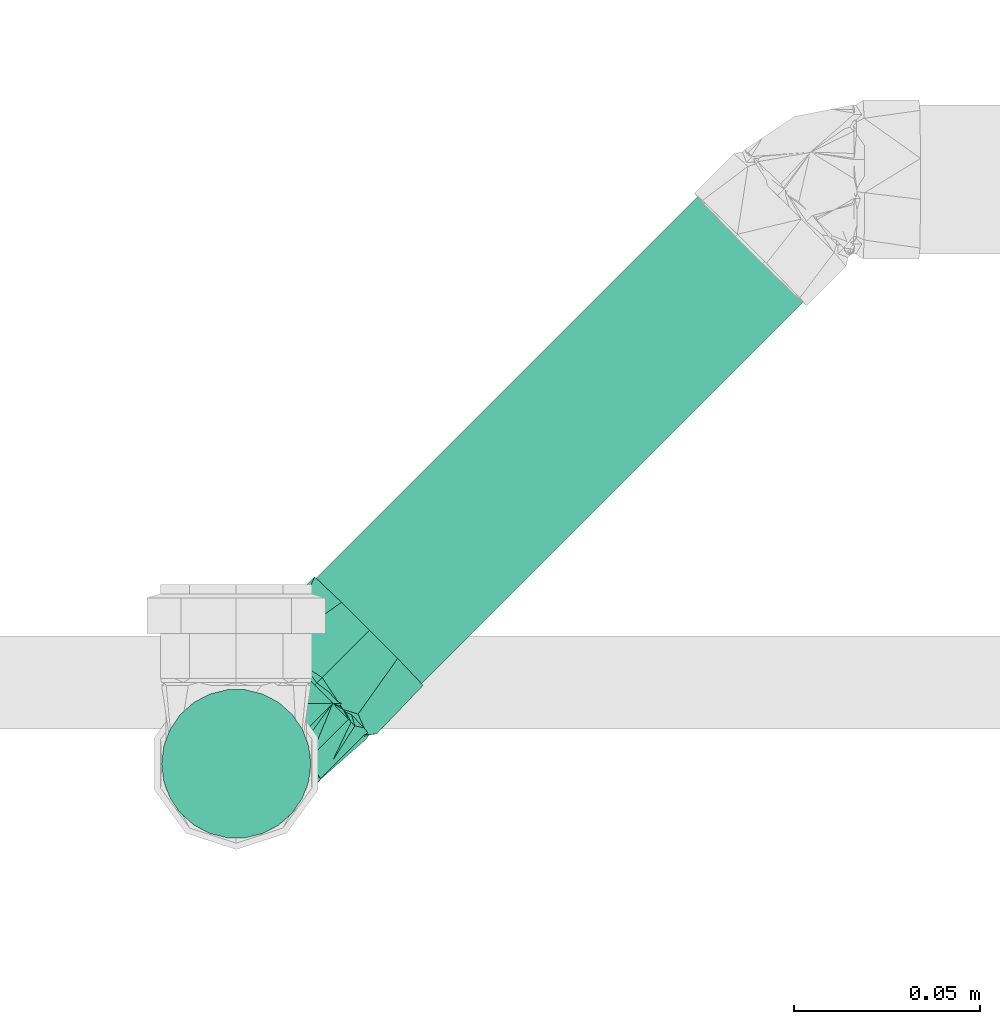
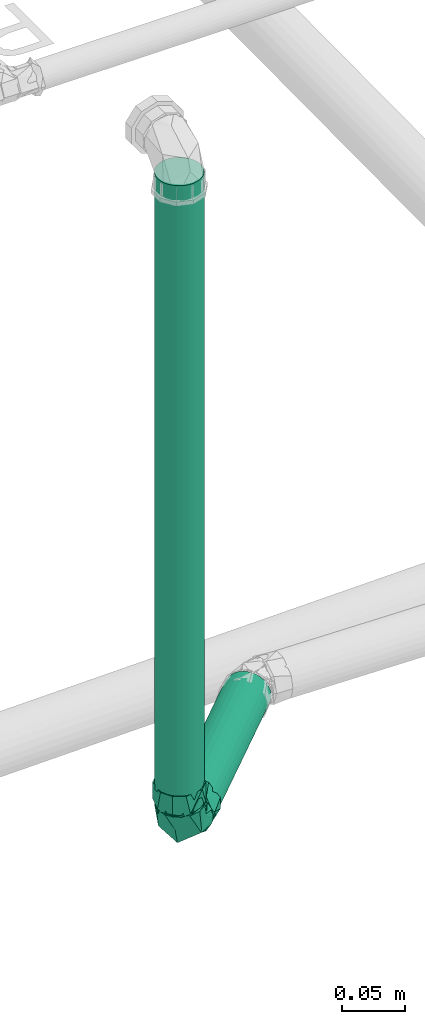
# One storey, part 253 of 589: 2 flow segments, 1 flow fitting.
"""IFC2X3 building model written with IfcOpenShell, lengths in millimetres."""

from ifc_helpers import new_model, entity, si_unit, converted_unit, derived_unit, direction, frame, frame_2d, origin, place, context, subcontext, project, spatial, circle, extrude, faceted_brep, source, transform, mapped, material, type_object, type_shapes, element, save


model = new_model("IFC2X3")

# Units and contexts
model_context = context("Model", 3, precision=0.01, world=origin(), true_north=direction((6.123031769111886e-17, 1.0)))
body_context = subcontext(model_context, "Body", "Model", "MODEL_VIEW")
ifc_project = project(units=[si_unit("LENGTHUNIT", "METRE", prefix="MILLI"), si_unit("AREAUNIT", "SQUARE_METRE"), si_unit("VOLUMEUNIT", "CUBIC_METRE"), converted_unit("PLANEANGLEUNIT", "DEGREE", entity("IfcRatioMeasure", 0.017453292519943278), si_unit("PLANEANGLEUNIT", "RADIAN"), dimensions=[0, 0, 0, 0, 0, 0, 0]), si_unit("MASSUNIT", "GRAM", prefix="KILO"), derived_unit("MASSDENSITYUNIT", [(si_unit("MASSUNIT", "GRAM", prefix="KILO"), 1), (si_unit("LENGTHUNIT", "METRE"), -3)]), derived_unit("IONCONCENTRATIONUNIT", [(si_unit("MASSUNIT", "GRAM", prefix="KILO"), 1), (si_unit("LENGTHUNIT", "METRE"), -3)]), derived_unit("MOMENTOFINERTIAUNIT", [(si_unit("LENGTHUNIT", "METRE"), 4)]), si_unit("TIMEUNIT", "SECOND"), si_unit("FREQUENCYUNIT", "HERTZ"), si_unit("THERMODYNAMICTEMPERATUREUNIT", "DEGREE_CELSIUS"), derived_unit("THERMALTRANSMITTANCEUNIT", [(si_unit("MASSUNIT", "GRAM", prefix="KILO"), 1), (si_unit("THERMODYNAMICTEMPERATUREUNIT", "KELVIN"), -1), (si_unit("TIMEUNIT", "SECOND"), -3)]), derived_unit("THERMALCONDUCTANCEUNIT", [(si_unit("MASSUNIT", "GRAM", prefix="KILO"), 1), (si_unit("THERMODYNAMICTEMPERATUREUNIT", "KELVIN"), -1), (si_unit("TIMEUNIT", "SECOND"), -3), (si_unit("LENGTHUNIT", "METRE"), 1)]), derived_unit("VOLUMETRICFLOWRATEUNIT", [(si_unit("LENGTHUNIT", "METRE"), 3), (si_unit("TIMEUNIT", "SECOND"), -1)]), derived_unit("MASSFLOWRATEUNIT", [(si_unit("MASSUNIT", "GRAM", prefix="KILO"), 1), (si_unit("TIMEUNIT", "SECOND"), -1)]), derived_unit("ROTATIONALFREQUENCYUNIT", [(si_unit("TIMEUNIT", "SECOND"), -1)]), si_unit("ELECTRICCURRENTUNIT", "AMPERE"), si_unit("ELECTRICVOLTAGEUNIT", "VOLT"), si_unit("POWERUNIT", "WATT"), si_unit("FORCEUNIT", "NEWTON", prefix="KILO"), si_unit("ILLUMINANCEUNIT", "LUX"), si_unit("LUMINOUSFLUXUNIT", "LUMEN"), si_unit("LUMINOUSINTENSITYUNIT", "CANDELA"), derived_unit("USERDEFINED", [(si_unit("MASSUNIT", "GRAM", prefix="KILO"), -1), (si_unit("LENGTHUNIT", "METRE"), -2), (si_unit("TIMEUNIT", "SECOND"), 3), (si_unit("LUMINOUSFLUXUNIT", "LUMEN"), 1)]), derived_unit("USERDEFINED", [(si_unit("MASSUNIT", "GRAM", prefix="KILO"), 1), (si_unit("TIMEUNIT", "SECOND"), -3), (si_unit("LENGTHUNIT", "METRE"), 3), (si_unit("ELECTRICCURRENTUNIT", "AMPERE"), -2)]), derived_unit("SOUNDPOWERUNIT", [(si_unit("MASSUNIT", "GRAM", prefix="KILO"), 1), (si_unit("TIMEUNIT", "SECOND"), -3), (si_unit("LENGTHUNIT", "METRE"), 2)]), derived_unit("SOUNDPRESSUREUNIT", [(si_unit("MASSUNIT", "GRAM", prefix="KILO"), 1), (si_unit("LENGTHUNIT", "METRE"), -1), (si_unit("TIMEUNIT", "SECOND"), -2)]), derived_unit("LINEARVELOCITYUNIT", [(si_unit("LENGTHUNIT", "METRE"), 1), (si_unit("TIMEUNIT", "SECOND"), -1)]), si_unit("PRESSUREUNIT", "PASCAL"), derived_unit("USERDEFINED", [(si_unit("MASSUNIT", "GRAM", prefix="KILO"), 1), (si_unit("LENGTHUNIT", "METRE"), -2), (si_unit("TIMEUNIT", "SECOND"), -2)]), derived_unit("LINEARFORCEUNIT", [(si_unit("MASSUNIT", "GRAM", prefix="KILO"), 1), (si_unit("TIMEUNIT", "SECOND"), -2)]), derived_unit("PLANARFORCEUNIT", [(si_unit("MASSUNIT", "GRAM", prefix="KILO"), 1), (si_unit("LENGTHUNIT", "METRE"), -1), (si_unit("TIMEUNIT", "SECOND"), -2)]), derived_unit("SPECIFICHEATCAPACITYUNIT", [(si_unit("THERMODYNAMICTEMPERATUREUNIT", "KELVIN"), -1), (si_unit("LENGTHUNIT", "METRE"), 2), (si_unit("TIMEUNIT", "SECOND"), -2)]), derived_unit("HEATINGVALUEUNIT", [(si_unit("LENGTHUNIT", "METRE"), 2), (si_unit("TIMEUNIT", "SECOND"), -2)]), derived_unit("VAPORPERMEABILITYUNIT", [(si_unit("LENGTHUNIT", "METRE"), -1), (si_unit("TIMEUNIT", "SECOND"), 1)]), derived_unit("DYNAMICVISCOSITYUNIT", [(si_unit("MASSUNIT", "GRAM", prefix="KILO"), 1), (si_unit("TIMEUNIT", "SECOND"), -1), (si_unit("LENGTHUNIT", "METRE"), -1)]), derived_unit("THERMALEXPANSIONCOEFFICIENTUNIT", [(si_unit("THERMODYNAMICTEMPERATUREUNIT", "KELVIN"), -1)]), derived_unit("MODULUSOFELASTICITYUNIT", [(si_unit("MASSUNIT", "GRAM", prefix="KILO"), 1), (si_unit("LENGTHUNIT", "METRE"), -1), (si_unit("TIMEUNIT", "SECOND"), -2)]), derived_unit("ISOTHERMALMOISTURECAPACITYUNIT", [(si_unit("LENGTHUNIT", "METRE"), 3), (si_unit("MASSUNIT", "GRAM", prefix="KILO"), -1)]), derived_unit("MOISTUREDIFFUSIVITYUNIT", [(si_unit("TIMEUNIT", "SECOND"), -1), (si_unit("LENGTHUNIT", "METRE"), 2)])], contexts=[model_context])

# Site, building, storey
site_placement = place(None, origin())
site = spatial("IfcSite", under=ifc_project, at=site_placement, Name="Default", CompositionType="ELEMENT")
building_placement = place(site_placement, origin())
building = spatial("IfcBuilding", under=site, at=building_placement, CompositionType="ELEMENT")
storey_placement = place(building_placement, frame((0.0, 0.0, 100.0)))
storey = spatial("IfcBuildingStorey", under=building, at=storey_placement, Name="TÉRREO", CompositionType="ELEMENT", Elevation=100.0)

# Flow segments
pipe_segment_type = type_object("IfcPipeSegmentType", Name="Tipos de tubos:PVC Esgoto Série Normal", PredefinedType="NOTDEFINED")
flow_segment_1_placement = place(storey_placement, origin())
element("IfcFlowSegment", 1, at=flow_segment_1_placement, inside=storey, type_object=pipe_segment_type, Name="Tipos de tubos:PVC Esgoto Série Normal", ObjectType="Tipos de tubos:PVC Esgoto Série Normal", context=body_context, shape_type="SweptSolid", body=[
    extrude(circle(Radius=20.0, at=frame_2d((2.935117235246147e-32, 1.6915895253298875e-14), x_axis=(1.0, 0.0))), frame((1886.7122832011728, 3245.9637501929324, -172.30065596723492), z_axis=(-0.7068620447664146, -0.7070252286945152, 0.021479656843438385), x_axis=(0.707188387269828, -0.70702516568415, 0.0)), (0.0, 0.0, 1.0), 177.85296681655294),
])
flow_segment_2_placement = place(storey_placement, origin())
element("IfcFlowSegment", 2, at=flow_segment_2_placement, inside=storey, type_object=pipe_segment_type, Name="Tipos de tubos:PVC Esgoto Série Normal", ObjectType="Tipos de tubos:PVC Esgoto Série Normal", context=body_context, shape_type="SweptSolid", body=[
    extrude(circle(Radius=20.0, at=frame_2d((-2.707167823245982e-13, 0.0), x_axis=(1.0, 0.0))), frame((1738.228520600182, 3097.4464120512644, -135.63044466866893)), (0.0, 0.0, 1.0), 613.8304446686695),
])

# Flow fitting
ifc_material = material(Name="PVC Branco")
pipe_fitting_type = type_object("IfcPipeFittingType", Name="PVC Esgoto_Curva 90° Curta:a. Série Normal", PredefinedType="NOTDEFINED", material=ifc_material)
shared_shape = source(origin(), body_context, "Body", "Brep", [
    faceted_brep([(17.961036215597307, 31.85321923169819, 10.0), (20.63999240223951, 31.79964010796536, 0.0), (17.961036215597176, 31.853219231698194, -10.0), (5.819337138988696, 32.09605321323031, -19.318516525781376), (-4.531354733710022, 32.30306705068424, -19.31851652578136), (-16.67305381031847, 32.545901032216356, -10.0), (-19.352009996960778, 32.59948015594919, 0.0), (-16.673053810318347, 32.54590103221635, 10.0), (-4.531354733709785, 32.303067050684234, 19.318516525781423), (5.819337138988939, 32.096053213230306, 19.318516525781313), (19.378093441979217, 29.02431814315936, 6.84041311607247), (15.905813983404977, 29.093763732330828, 12.855768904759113), (20.584003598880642, 29.000199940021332, 0.0), (7.427001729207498, 29.263339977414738, 18.793865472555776), (0.5880023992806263, 29.40011996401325, 20.0), (-12.265223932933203, 29.657184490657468, 15.320851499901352), (-18.202100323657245, 29.775922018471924, 6.840381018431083), (-19.407998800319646, 29.800039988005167, 0.0), (-6.251109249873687, 29.536902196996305, 18.79382458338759), (-18.202100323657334, 29.775922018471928, -6.840381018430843), (-14.729853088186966, 29.70647707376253, -12.855716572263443), (-6.25110924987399, 29.53690219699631, -18.79382458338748), (0.588002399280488, 29.40011996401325, -20.0), (13.441163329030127, 29.143056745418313, -15.32090639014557), (19.378093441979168, 29.02431814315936, -6.8404131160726), (7.427001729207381, 29.263339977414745, -18.79386547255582), (-11.35075352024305, -12.626805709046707, 0.0), (-29.405999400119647, -18.793848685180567, 6.8404131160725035), (-29.405999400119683, -19.396924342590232, 3.420206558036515), (-29.405999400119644, -20.0, 0.0), (-29.40599940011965, -15.320874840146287, 12.855768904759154), (-29.405999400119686, -17.057361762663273, 9.848091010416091), (-2.3339581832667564, 2.3811033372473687, 18.02101843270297), (-29.40599940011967, -6.840366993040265, 18.793865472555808), (-29.405999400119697, -11.080620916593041, 15.824817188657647), (-29.405999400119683, 0.0, 20.0), (-29.40599940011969, -3.420183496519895, 19.396932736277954), (-12.878045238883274, 13.138181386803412, 18.95216884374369), (12.851249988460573, 11.095996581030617, 0.0), (5.594072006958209, -5.707072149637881, 0.0), (-29.405999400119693, 6.840479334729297, 18.79382458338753), (-29.405999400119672, 3.4202396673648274, 19.396912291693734), (-29.405999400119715, 18.793860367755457, 6.840381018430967), (-29.405999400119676, 15.824828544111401, 11.080616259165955), (-29.405999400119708, 12.855796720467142, 15.320851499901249), (-22.405985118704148, 22.858585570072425, 0.0), (-29.40599940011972, 20.0, 0.0), (-29.405999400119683, 19.396930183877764, 3.4201905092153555), (-29.405999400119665, 9.848138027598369, 17.0573380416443), (-14.138248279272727, 14.423838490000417, -18.24666465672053), (-29.405999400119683, 0.0, -20.0), (-29.40599940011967, 3.4202396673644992, -19.396912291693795), (-29.405999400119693, 6.840479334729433, -18.79382458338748), (-29.405999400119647, -18.79384868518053, -6.840413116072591), (-29.40599940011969, -15.824789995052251, -11.080659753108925), (-29.405999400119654, -12.85573130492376, -15.32090639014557), (-2.333957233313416, 2.3811024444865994, -18.021017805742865), (-29.405999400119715, 18.793860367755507, -6.840381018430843), (-29.405999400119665, 11.080699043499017, -15.824770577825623), (-29.405999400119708, 15.320918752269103, -12.855716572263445), (-29.405999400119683, -19.396924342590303, -3.420206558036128), (-29.405999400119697, -9.848049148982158, -17.0573859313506), (-29.40599940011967, -6.840366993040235, -18.79386547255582), (-29.40599940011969, -3.420183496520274, -19.396932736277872), (-29.405999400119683, 19.39693018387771, -3.4201905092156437), (-29.405999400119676, 17.05738956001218, -9.848048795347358), (-30.20599940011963, -8.21241269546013, -16.988887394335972), (-30.20599940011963, -11.248444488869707, -14.659258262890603), (-30.20599940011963, -14.28447628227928, -12.329629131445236), (-30.20599940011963, -17.320508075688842, -10.0), (-30.20599940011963, -18.66025403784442, -5.0), (-30.20599940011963, -20.0, 0.0), (-30.20599940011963, -18.660254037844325, 5.0), (-30.20599940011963, -17.320508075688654, 10.0), (-30.20599940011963, -14.284476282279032, 12.329629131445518), (-30.20599940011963, -11.248444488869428, 14.659258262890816), (-30.20599940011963, -8.21241269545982, 16.988887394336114), (-30.20599940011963, -5.1763809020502, 19.318516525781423), (-30.20599940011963, 0.0, 19.31851652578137), (-30.20599940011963, 5.176380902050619, 19.318516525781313), (-30.20599940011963, 8.21241269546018, 16.98888739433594), (-30.20599940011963, 11.248444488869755, 14.65925826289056), (-30.205999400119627, 14.284476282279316, 12.329629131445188), (-30.20599940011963, 17.320508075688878, 10.0), (-30.20599940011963, 18.66025403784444, 5.0), (-30.20599940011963, 20.0, 0.0), (-30.20599940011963, 18.66025403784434, -5.0), (-30.20599940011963, 17.32050807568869, -10.0), (-30.20599940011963, 14.284476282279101, -12.329629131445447), (-30.20599940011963, 11.24844448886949, -14.659258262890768), (-30.20599940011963, 8.212412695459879, -16.988887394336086), (-30.20599940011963, 5.1763809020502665, -19.318516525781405), (-30.20599940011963, 0.0, -19.318516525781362), (-30.20599940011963, -5.176380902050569, -19.318516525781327)], [[[0, 1, 2, 3, 4, 5, 6, 7, 8, 9]], [[10, 1, 0]], [[11, 0, 9]], [[12, 1, 10]], [[11, 10, 0]], [[13, 11, 9]], [[9, 14, 13]], [[15, 8, 7]], [[7, 6, 16]], [[17, 16, 6]], [[14, 8, 18]], [[15, 18, 8]], [[16, 15, 7]], [[8, 14, 9]], [[19, 6, 5]], [[20, 5, 4]], [[17, 6, 19]], [[20, 19, 5]], [[21, 20, 4]], [[4, 22, 21]], [[23, 3, 2]], [[2, 1, 24]], [[12, 24, 1]], [[22, 3, 25]], [[23, 25, 3]], [[24, 23, 2]], [[3, 22, 4]], [[26, 27, 28, 29]], [[26, 30, 31, 27]], [[32, 33, 34, 30]], [[32, 35, 36, 33]], [[35, 32, 37]], [[11, 38, 10]], [[26, 32, 30]], [[32, 39, 38]], [[37, 40, 41, 35]], [[37, 42, 43, 44]], [[45, 46, 47, 42]], [[16, 45, 42]], [[37, 44, 48, 40]], [[39, 32, 26]], [[14, 18, 37]], [[32, 11, 13]], [[14, 37, 32]], [[32, 38, 11]], [[12, 10, 38]], [[45, 16, 17]], [[37, 15, 16]], [[37, 16, 42]], [[15, 37, 18]], [[32, 13, 14]], [[49, 50, 51, 52]], [[49, 21, 22]], [[26, 53, 54, 55]], [[56, 39, 26]], [[49, 57, 19]], [[49, 52, 58, 59]], [[56, 50, 49]], [[26, 29, 60, 53]], [[56, 55, 61, 62]], [[56, 62, 63, 50]], [[26, 55, 56]], [[45, 57, 64, 46]], [[45, 17, 19]], [[24, 12, 38]], [[23, 56, 25]], [[49, 20, 21]], [[49, 19, 20]], [[56, 49, 22]], [[56, 23, 38]], [[49, 59, 65, 57]], [[38, 39, 56]], [[24, 38, 23]], [[56, 22, 25]], [[19, 57, 45]], [[66, 67, 68, 69, 70, 71, 72, 73, 74, 75, 76, 77, 78, 79, 80, 81, 82, 83, 84, 85, 86, 87, 88, 89, 90, 91, 92, 93]], [[47, 46, 85]], [[33, 77, 76]], [[80, 40, 48]], [[48, 44, 81]], [[33, 76, 34]], [[81, 80, 48]], [[84, 83, 42]], [[82, 81, 44]], [[73, 72, 27]], [[85, 84, 47]], [[78, 41, 79]], [[77, 36, 78]], [[30, 75, 74, 73]], [[73, 27, 31, 30]], [[77, 33, 36]], [[71, 28, 72]], [[44, 43, 82]], [[36, 35, 78]], [[41, 40, 79]], [[34, 76, 75]], [[43, 42, 83]], [[75, 30, 34]], [[41, 78, 35]], [[84, 42, 47]], [[80, 79, 40]], [[43, 83, 82]], [[28, 71, 29]], [[28, 27, 72]], [[60, 29, 71]], [[52, 91, 90]], [[66, 62, 61]], [[61, 55, 67]], [[52, 90, 58]], [[67, 66, 61]], [[70, 69, 53]], [[68, 67, 55]], [[87, 86, 57]], [[71, 70, 60]], [[92, 63, 93]], [[91, 51, 92]], [[59, 89, 88, 87]], [[87, 57, 65, 59]], [[91, 52, 51]], [[85, 64, 86]], [[55, 54, 68]], [[51, 50, 92]], [[63, 62, 93]], [[90, 89, 58]], [[54, 53, 69]], [[89, 59, 58]], [[63, 92, 50]], [[70, 53, 60]], [[66, 93, 62]], [[54, 69, 68]], [[64, 85, 46]], [[64, 57, 86]]]),
    faceted_brep([(-32.20599940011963, -17.320508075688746, -10.0), (-32.20599940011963, -20.0, 0.0), (-32.20599940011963, -17.320508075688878, 10.0), (-32.20599940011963, -5.176380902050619, 19.318516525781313), (-32.20599940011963, 5.1763809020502, 19.318516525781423), (-32.20599940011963, 17.320508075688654, 10.0), (-32.20599940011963, 20.0, 0.0), (-32.20599940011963, 17.320508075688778, -10.0), (-32.20599940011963, 5.17638090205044, -19.31851652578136), (-32.20599940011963, -5.176380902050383, -19.318516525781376), (-29.40599940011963, -20.0, 0.0), (-29.40599940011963, -15.320920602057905, 12.855714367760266), (-29.40599940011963, 3.4728419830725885, 19.696176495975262), (-29.40599940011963, 15.320777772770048, 12.855884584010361), (-29.40599940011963, 20.0, 0.0), (-29.40599940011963, 15.320777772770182, -12.855884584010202), (-29.405999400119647, 5.923858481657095, -16.27601124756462), (-29.40599940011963, -3.473060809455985, -19.69613791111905), (-29.40599940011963, -15.320920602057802, -12.855714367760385), (12.85124998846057, 11.095996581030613, 0.0), (19.378093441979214, 29.024318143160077, 6.8404131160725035), (16.409628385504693, 29.083687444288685, 11.080659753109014), (13.441163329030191, 29.143056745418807, 15.320906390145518), (5.594072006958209, -5.707072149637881, 0.0), (-3.0189256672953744, 1.4413580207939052, 17.919138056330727), (-11.350753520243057, -12.626805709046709, 0.0), (-13.807968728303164, 12.593198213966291, 18.87014454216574), (-6.251109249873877, 29.53690219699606, 18.793824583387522), (-10.490481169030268, 29.621689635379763, 15.824770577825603), (-14.729853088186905, 29.70647707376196, 12.855716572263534), (-22.405985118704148, 22.858585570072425, 0.0), (-18.20210032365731, 29.775922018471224, 6.84038101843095), (-18.805049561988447, 29.787981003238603, 3.4201905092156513), (-19.407998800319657, 29.80003998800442, 0.0), (7.427001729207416, 29.26333997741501, 18.793865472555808), (4.007502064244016, 29.331729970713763, 19.396932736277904), (0.5880023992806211, 29.400119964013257, 20.0), (10.434082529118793, 29.203198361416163, 17.057385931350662), (20.58400359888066, 29.000199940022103, 0.0), (19.981048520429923, 29.012259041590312, 3.420206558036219), (-2.8315534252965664, 29.46851108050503, 19.396912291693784), (-16.465976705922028, 29.74119954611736, 9.84804879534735), (-12.878069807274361, 13.13814230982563, -18.95217245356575), (-12.265223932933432, 29.657184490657, -15.32085149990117), (-9.258166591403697, 29.59704334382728, -17.057338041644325), (-6.251109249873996, 29.53690219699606, -18.79382458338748), (-18.202100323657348, 29.775922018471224, -6.840381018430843), (-2.142006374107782, 2.6554433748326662, -18.049846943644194), (-18.80504956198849, 29.787981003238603, -3.4201905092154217), (-15.233662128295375, 29.716553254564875, -11.080616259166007), (19.378093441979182, 29.02431814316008, -6.840413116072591), (19.981048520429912, 29.012259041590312, -3.4202065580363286), (0.5880023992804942, 29.400119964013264, -20.0), (4.0075020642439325, 29.331729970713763, -19.396932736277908), (7.427001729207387, 29.26333997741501, -18.79386547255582), (11.666407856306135, 29.178551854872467, -15.824817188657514), (15.905813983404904, 29.09376373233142, -12.855768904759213), (17.64195371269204, 29.05904093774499, -9.8480910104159), (-2.831553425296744, 29.46851108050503, -19.39691229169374), (-4.571346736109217, 30.303466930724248, -19.31851652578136), (-7.60677150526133, 30.364175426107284, -16.988887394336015), (-10.64219627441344, 30.424883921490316, -14.659258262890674), (-13.677621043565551, 30.48559241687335, -12.329629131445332), (-16.713045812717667, 30.54630091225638, -10.0), (-18.052523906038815, 30.573090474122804, -5.0), (-19.392001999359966, 30.599880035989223, 0.0), (-18.052523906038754, 30.573090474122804, 5.0), (-16.71304581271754, 30.54630091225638, 10.0), (-13.67762104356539, 30.48559241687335, 12.329629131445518), (-10.642196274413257, 30.424883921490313, 14.659258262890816), (-7.606771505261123, 30.364175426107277, 16.988887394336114), (-4.571346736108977, 30.303466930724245, 19.318516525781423), (0.6039992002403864, 30.199960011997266, 19.31851652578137), (5.779345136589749, 30.096453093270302, 19.318516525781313), (8.814769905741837, 30.035744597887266, 16.98888739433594), (11.85019467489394, 29.975036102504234, 14.65925826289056), (14.885619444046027, 29.9143276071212, 12.329629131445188), (17.92104421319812, 29.853619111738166, 10.0), (19.26052230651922, 29.82682954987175, 5.0), (20.60000039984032, 29.80003998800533, 0.0), (19.260522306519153, 29.82682954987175, -5.0), (17.921044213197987, 29.85361911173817, -10.0), (14.885619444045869, 29.914327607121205, -12.329629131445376), (11.850194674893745, 29.975036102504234, -14.659258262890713), (8.814769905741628, 30.03574459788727, -16.988887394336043), (5.779345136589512, 30.096453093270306, -19.318516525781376), (0.6039992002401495, 30.199960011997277, -19.31851652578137)], [[[0, 1, 2, 3, 4, 5, 6, 7, 8, 9]], [[10, 11, 2]], [[10, 2, 1]], [[2, 11, 3]], [[11, 12, 3]], [[4, 12, 13]], [[5, 13, 14]], [[13, 5, 4]], [[5, 14, 6]], [[12, 4, 3]], [[14, 15, 7]], [[14, 7, 6]], [[7, 15, 8]], [[8, 15, 16, 17]], [[9, 17, 18]], [[0, 18, 10]], [[18, 0, 9]], [[0, 10, 1]], [[17, 9, 8]], [[19, 20, 21, 22]], [[23, 24, 25]], [[26, 13, 12]], [[25, 24, 11]], [[24, 23, 19]], [[26, 27, 28, 29]], [[14, 13, 30]], [[11, 10, 25]], [[30, 31, 32, 33]], [[31, 30, 13]], [[24, 34, 35, 36]], [[24, 26, 12]], [[24, 22, 37, 34]], [[11, 24, 12]], [[19, 38, 39, 20]], [[26, 36, 40, 27]], [[13, 29, 41, 31]], [[13, 26, 29]], [[36, 26, 24]], [[22, 24, 19]], [[15, 14, 30]], [[42, 43, 44, 45]], [[15, 30, 46]], [[16, 15, 42, 17]], [[47, 25, 18]], [[47, 18, 17]], [[42, 15, 46]], [[30, 33, 48, 46]], [[42, 46, 49, 43]], [[19, 50, 51, 38]], [[47, 52, 53, 54]], [[47, 54, 55, 56]], [[42, 52, 47]], [[19, 56, 57, 50]], [[25, 47, 23]], [[19, 23, 47]], [[25, 10, 18]], [[19, 47, 56]], [[17, 42, 47]], [[42, 45, 58, 52]], [[59, 60, 61, 62, 63, 64, 65, 66, 67, 68, 69, 70, 71, 72, 73, 74, 75, 76, 77, 78, 79, 80, 81, 82, 83, 84, 85, 86]], [[39, 38, 79]], [[21, 77, 76]], [[74, 34, 37]], [[37, 22, 75]], [[79, 78, 39]], [[75, 74, 37]], [[74, 73, 34]], [[76, 75, 22]], [[22, 21, 76]], [[78, 77, 20]], [[72, 35, 73]], [[27, 70, 28]], [[29, 69, 68, 67]], [[67, 31, 41, 29]], [[71, 27, 40]], [[65, 32, 66]], [[71, 40, 72]], [[40, 36, 72]], [[67, 66, 31]], [[28, 70, 69]], [[35, 34, 73]], [[69, 29, 28]], [[35, 72, 36]], [[78, 20, 39]], [[21, 20, 77]], [[27, 71, 70]], [[32, 65, 33]], [[32, 31, 66]], [[48, 33, 65]], [[54, 85, 84]], [[60, 45, 44]], [[44, 43, 61]], [[54, 84, 55]], [[61, 60, 44]], [[64, 63, 46]], [[62, 61, 43]], [[81, 80, 50]], [[65, 64, 48]], [[86, 58, 59]], [[85, 53, 86]], [[56, 83, 82, 81]], [[81, 50, 57, 56]], [[85, 54, 53]], [[79, 51, 80]], [[43, 49, 62]], [[53, 52, 86]], [[58, 45, 59]], [[55, 84, 83]], [[49, 46, 63]], [[83, 56, 55]], [[58, 86, 52]], [[64, 46, 48]], [[60, 59, 45]], [[49, 63, 62]], [[51, 79, 38]], [[51, 50, 80]]]),
    faceted_brep([(5.819337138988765, 32.09605321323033, 19.31851652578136), (17.961036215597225, 31.853219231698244, 10.0), (20.63999240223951, 31.799640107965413, 0.0), (17.96103621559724, 31.853219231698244, -10.0), (5.8193371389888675, 32.09605321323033, -19.318516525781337), (-4.531354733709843, 32.30306705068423, -19.31851652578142), (-16.67305381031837, 32.54590103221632, -10.0), (-19.352009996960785, 32.59948015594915, 0.0), (-16.673053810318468, 32.54590103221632, 10.0), (-4.531354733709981, 32.303067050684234, 19.318516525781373), (-4.571346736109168, 30.303466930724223, 19.318516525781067), (-16.713045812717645, 30.54630091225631, 10.0), (-19.39200199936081, 30.599880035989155, 0.0), (-16.713045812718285, 30.546300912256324, -10.0), (-4.571346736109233, 30.303466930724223, -19.318516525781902), (5.779345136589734, 30.096453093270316, -19.31851652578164), (17.92104421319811, 29.853619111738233, -10.0), (20.60000039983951, 29.800039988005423, 0.0), (17.92104421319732, 29.853619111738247, 10.0), (5.779345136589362, 30.096453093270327, 19.31851652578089), (16.960145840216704, 31.873237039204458, -13.688192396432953), (21.93973248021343, 31.77364530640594, 0.0), (4.344880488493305, 32.12554234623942, -20.97588948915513), (-20.651750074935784, 32.625474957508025, 0.0), (-15.668729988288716, 32.52581455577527, -13.692285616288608), (-5.661924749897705, 32.32567845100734, -17.33408755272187), (-15.668729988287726, 32.52581455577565, 13.69228561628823), (-3.0516373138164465, 32.27347270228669, 20.976817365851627), (16.960145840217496, 31.87323703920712, 13.688192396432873), (6.954254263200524, 32.073354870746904, 17.332504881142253), (-4.507824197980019, 50.30619608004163, -20.574220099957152), (-4.171426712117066, 50.29946813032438, -19.318516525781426), (6.1792651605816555, 50.09245429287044, -19.318516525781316), (-17.438733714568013, 50.56481427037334, -10.649999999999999), (6.515662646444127, 50.0857263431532, -20.57422009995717), (-16.31312578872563, 50.54230211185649, -10.0), (-18.99208197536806, 50.59588123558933, 0.0), (-20.29182205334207, 50.62187603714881, 0.0), (-16.313125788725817, 50.54230211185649, 10.0), (-17.438733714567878, 50.56481427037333, 10.650000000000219), (-4.1714267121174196, 50.29946813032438, 19.318516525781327), (-4.5078241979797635, 50.30619608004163, 20.574220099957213), (6.179265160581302, 50.09245429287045, 19.3185165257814), (6.515662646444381, 50.08572634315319, 20.574220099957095), (18.320964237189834, 49.84962031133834, 10.0), (19.446572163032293, 49.827108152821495, 10.649999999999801), (22.299660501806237, 49.770046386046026, 0.0), (20.99992042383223, 49.796041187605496, 0.0), (19.44657216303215, 49.8271081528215, -10.650000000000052), (18.320964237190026, 49.84962031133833, -10.0)], [[[0, 1, 2, 3, 4, 5, 6, 7, 8, 9]], [[10, 11, 12, 13, 14, 15, 16, 17, 18, 19]], [[16, 15, 20]], [[17, 16, 21]], [[21, 16, 20]], [[15, 22, 20]], [[23, 13, 12]], [[24, 14, 13]], [[15, 14, 22]], [[23, 24, 13]], [[25, 22, 14, 24]], [[11, 10, 26]], [[12, 11, 23]], [[23, 11, 26]], [[10, 27, 26]], [[21, 18, 17]], [[28, 19, 18]], [[10, 19, 27]], [[21, 28, 18]], [[29, 27, 19, 28]], [[30, 31, 32]], [[31, 30, 33]], [[32, 34, 30]], [[33, 35, 31]], [[33, 36, 35]], [[36, 33, 37]], [[38, 36, 37]], [[38, 37, 39]], [[39, 40, 38]], [[39, 41, 40]], [[40, 41, 42]], [[43, 42, 41]], [[43, 44, 42]], [[44, 43, 45]], [[46, 44, 45]], [[47, 44, 46]], [[48, 47, 46]], [[48, 49, 47]], [[49, 48, 34]], [[34, 32, 49]], [[46, 45, 21]], [[45, 28, 21]], [[28, 45, 43]], [[43, 27, 29, 28]], [[26, 41, 39]], [[23, 39, 37]], [[41, 26, 27]], [[26, 39, 23]], [[41, 27, 43]], [[37, 33, 23]], [[33, 24, 23]], [[24, 33, 30]], [[30, 22, 25, 24]], [[20, 34, 48]], [[21, 48, 46]], [[34, 20, 22]], [[20, 48, 21]], [[34, 22, 30]], [[3, 2, 47, 49]], [[4, 3, 49, 32]], [[32, 31, 5, 4]], [[6, 5, 31, 35]], [[7, 6, 35, 36]], [[8, 7, 36, 38]], [[9, 8, 38, 40]], [[40, 42, 0, 9]], [[1, 0, 42, 44]], [[2, 1, 44, 47]]]),
    faceted_brep([(-50.20599940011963, -5.512845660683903, -20.574220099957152), (-50.20599940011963, -5.176380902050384, -19.318516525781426), (-50.20599940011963, 5.176380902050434, -19.318516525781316), (-50.20599940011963, -18.446341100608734, -10.649999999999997), (-50.20599940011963, 5.512845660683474, -20.57422009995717), (-50.20599940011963, -17.320508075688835, -10.0), (-50.20599940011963, -20.0, 0.0), (-50.20599940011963, -21.300000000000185, 0.0), (-50.20599940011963, -17.320508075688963, 10.0), (-50.20599940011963, -18.4463411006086, 10.650000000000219), (-50.20599940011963, -5.176380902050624, 19.318516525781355), (-50.20599940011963, -5.512845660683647, 20.574220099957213), (-50.20599940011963, 5.176380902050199, 19.318516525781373), (-50.20599940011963, 5.512845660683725, 20.574220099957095), (-50.20599940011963, 17.320508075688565, 10.0), (-50.20599940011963, 18.44634110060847, 10.649999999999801), (-50.20599940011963, 21.299999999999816, 0.0), (-50.20599940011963, 20.0, 0.0), (-50.20599940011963, 18.446341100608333, -10.650000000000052), (-50.20599940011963, 17.320508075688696, -10.0), (-32.20599940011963, 21.299999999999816, 0.0), (-32.205999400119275, 16.319417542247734, 13.688192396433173), (-32.205999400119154, 3.701629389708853, 20.975889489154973), (-32.20599940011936, -16.315983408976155, 13.692285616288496), (-32.20599940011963, -21.300000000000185, 0.0), (-32.20599940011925, -6.307177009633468, 17.334087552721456), (-32.20599940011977, -16.31598340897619, -13.692285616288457), (-32.20599940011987, -3.6963675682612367, -20.976817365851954), (-32.2059994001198, 16.319417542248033, -13.688192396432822), (-32.20599940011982, 6.311524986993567, -17.332504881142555), (-32.20599940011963, -5.176380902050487, 19.31851652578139), (-32.20599940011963, 5.176380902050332, 19.318516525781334), (-32.20599940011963, 17.320508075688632, 10.0), (-32.20599940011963, 20.0, 0.0), (-32.20599940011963, 17.320508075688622, -10.0), (-32.20599940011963, 5.176380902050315, -19.318516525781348), (-32.20599940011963, -5.1763809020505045, -19.318516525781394), (-32.20599940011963, -17.3205080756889, -10.0), (-32.20599940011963, -20.0, 0.0), (-32.20599940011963, -17.32050807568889, 10.0), (-30.20599940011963, -5.176380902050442, 19.31851652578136), (-30.20599940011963, -17.320508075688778, 10.0), (-30.20599940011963, -20.0, 0.0), (-30.20599940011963, -17.320508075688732, -10.0), (-30.20599940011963, -5.176380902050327, -19.318516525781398), (-30.20599940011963, 5.176380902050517, -19.318516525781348), (-30.20599940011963, 17.320508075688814, -10.0), (-30.20599940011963, 20.0, 0.0), (-30.20599940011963, 17.320508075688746, 10.0), (-30.20599940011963, 5.176380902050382, 19.318516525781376)], [[[0, 1, 2]], [[1, 0, 3]], [[2, 4, 0]], [[3, 5, 1]], [[3, 6, 5]], [[6, 3, 7]], [[8, 6, 7]], [[8, 7, 9]], [[9, 10, 8]], [[9, 11, 10]], [[10, 11, 12]], [[13, 12, 11]], [[13, 14, 12]], [[14, 13, 15]], [[16, 14, 15]], [[17, 14, 16]], [[18, 17, 16]], [[18, 19, 17]], [[19, 18, 4]], [[4, 2, 19]], [[16, 15, 20]], [[15, 21, 20]], [[21, 15, 13]], [[21, 13, 22]], [[23, 11, 9]], [[24, 9, 7]], [[11, 23, 25, 22]], [[23, 9, 24]], [[11, 22, 13]], [[7, 3, 24]], [[3, 26, 24]], [[26, 3, 0]], [[26, 0, 27]], [[28, 4, 18]], [[20, 18, 16]], [[4, 28, 29, 27]], [[28, 18, 20]], [[4, 27, 0]], [[30, 31, 32, 33, 34, 35, 36, 37, 38, 39]], [[40, 41, 42, 43, 44, 45, 46, 47, 48, 49]], [[45, 28, 46]], [[47, 46, 20]], [[20, 46, 28]], [[27, 45, 44]], [[26, 44, 43]], [[24, 43, 42]], [[45, 27, 29, 28]], [[26, 27, 44]], [[24, 26, 43]], [[40, 23, 41]], [[42, 41, 24]], [[24, 41, 23]], [[22, 40, 49]], [[21, 49, 48]], [[20, 48, 47]], [[40, 22, 25, 23]], [[21, 22, 49]], [[20, 21, 48]], [[34, 33, 17, 19]], [[35, 34, 19, 2]], [[2, 1, 36, 35]], [[37, 36, 1, 5]], [[38, 37, 5, 6]], [[39, 38, 6, 8]], [[30, 39, 8, 10]], [[10, 12, 31, 30]], [[32, 31, 12, 14]], [[33, 32, 14, 17]]]),
])
type_shapes(pipe_fitting_type, [shared_shape])
flow_fitting_placement = place(storey_placement, frame((1738.228520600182, 3097.4464120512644, -167.83644406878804), z_axis=(0.7071774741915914, -0.7070360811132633, 0.0), x_axis=(0.0, 0.0, -1.0)))
element("IfcFlowFitting", 3, at=flow_fitting_placement, inside=storey, type_object=pipe_fitting_type, material=ifc_material, Name="PVC Esgoto_Curva 90° Curta:a. Série Normal", ObjectType="PVC Esgoto_Curva 90° Curta:a. Série Normal", context=body_context, shape_type="MappedRepresentation", body=[
    mapped(shared_shape, transform((0.0, 0.0, 0.0), scale=1.0)),
])

save(model, "model.ifc")
